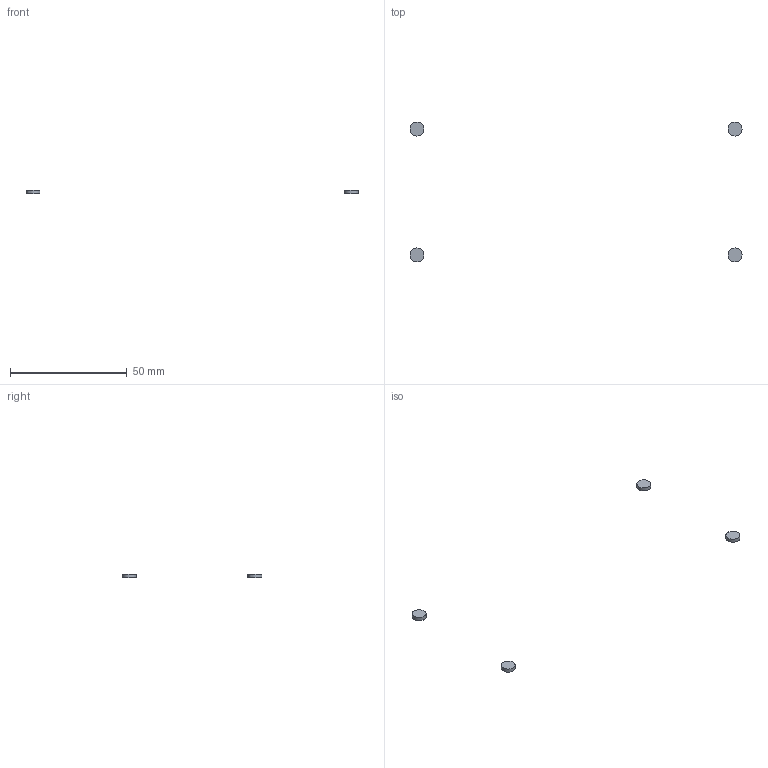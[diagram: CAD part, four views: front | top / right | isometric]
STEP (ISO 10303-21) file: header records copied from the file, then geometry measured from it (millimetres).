
FILE_DESCRIPTION(('Open CASCADE Model'),'2;1');
FILE_NAME('Open CASCADE Shape Model','2026-09-29T12:48:02',('Author'),( 'Open CASCADE'),'Open CASCADE STEP processor 7.9','Open CASCADE 7.9' ,'Unknown');
FILE_SCHEMA(('AUTOMOTIVE_DESIGN { 1 0 10303 214 1 1 1 1 }'));
Length unit declared in the file: millimetre
Products named in the file (5): Open CASCADE STEP translator 7.9 16; Open CASCADE STEP translator 7.9 16.1; Open CASCADE STEP translator 7.9 16.2; Open CASCADE STEP translator 7.9 16.3; Open CASCADE STEP translator 7.9 16.4
Assembly tree (4 placements, depth 2):
  Open CASCADE STEP translator 7.9 16
    Open CASCADE STEP translator 7.9 16.1
    Open CASCADE STEP translator 7.9 16.2
    Open CASCADE STEP translator 7.9 16.3
    Open CASCADE STEP translator 7.9 16.4
Bounding box: 142.35 x 60 x 1.6 mm (x, y, z)
Volume: 181 mm3; surface area: 346.8 mm2
Topology: 4 solids, 4 shells, 12 faces, 12 edges, 8 vertices
Faces by surface type: plane 8, cylinder 4
Full cylindrical faces by diameter (mm): 6 x4
Entity records: 456 total; most frequent: DIRECTION 78, CARTESIAN_POINT 61, AXIS2_PLACEMENT_3D 25, ORIENTED_EDGE 24, PCURVE 24, DEFINITIONAL_REPRESENTATION 24, LINE 20, VECTOR 20
